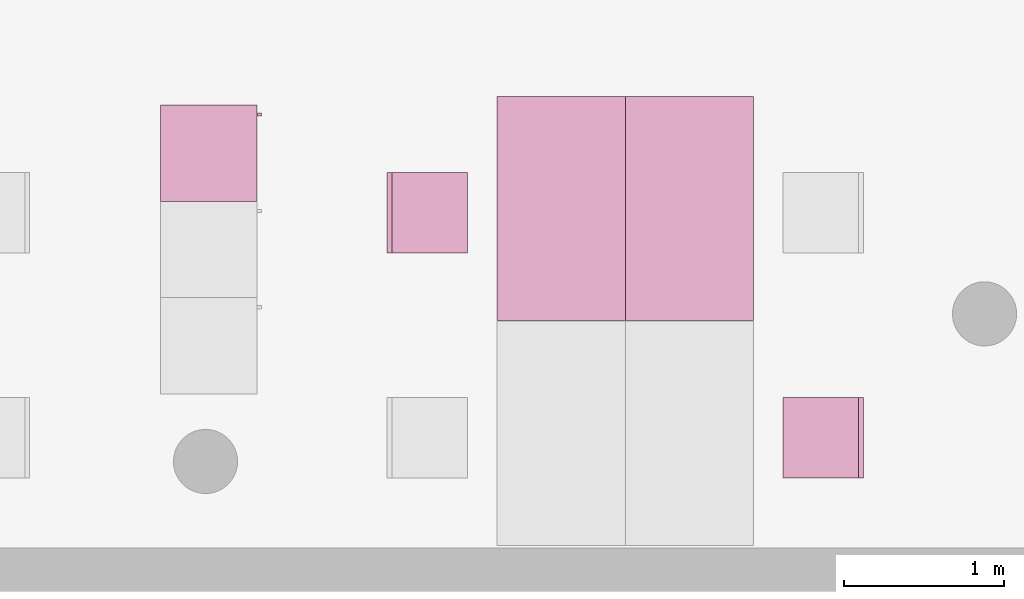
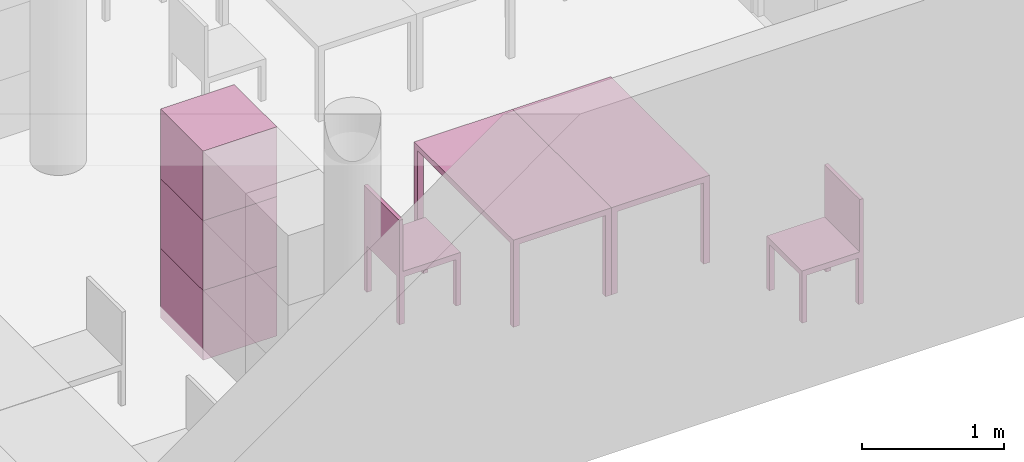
"""IFC4 building model written with IfcOpenShell, lengths in metres."""

from ifc_helpers import new_model, entity, si_unit, converted_unit, derived_unit, frame, origin, place, context, subcontext, project, spatial, faceted_brep, element, save


model = new_model("IFC4")

# Units and contexts
model_context = context("Model", 3, precision=1e-05, world=origin())
body_context = subcontext(model_context, "Body", "Model", "MODEL_VIEW")
ifc_project = project(units=[si_unit("LENGTHUNIT", "METRE"), si_unit("AREAUNIT", "SQUARE_METRE"), si_unit("VOLUMEUNIT", "CUBIC_METRE"), si_unit("MASSUNIT", "GRAM", prefix="KILO"), converted_unit("PLANEANGLEUNIT", "DEGREE", entity("IfcPlaneAngleMeasure", 0.0174532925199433), si_unit("PLANEANGLEUNIT", "RADIAN"), dimensions=[0, 0, 0, 0, 0, 0, 0]), derived_unit("THERMALTRANSMITTANCEUNIT", [(si_unit("POWERUNIT", "WATT"), 1), (si_unit("THERMODYNAMICTEMPERATUREUNIT", "KELVIN"), -1), (si_unit("LENGTHUNIT", "METRE"), -2)]), derived_unit("VOLUMETRICFLOWRATEUNIT", [(si_unit("LENGTHUNIT", "METRE"), 3), (converted_unit("TIMEUNIT", "hour", entity("IfcTimeMeasure", 3600.0), si_unit("TIMEUNIT", "SECOND"), dimensions=[0, 0, 1, 0, 0, 0, 0]), -1), (si_unit("LENGTHUNIT", "METRE"), -1)])], contexts=[model_context])

# Building, storeys
building_placement = place(None, origin())
building = spatial("IfcBuilding", under=ifc_project, at=building_placement, Name="HABITATGE PLURIFAMILIAR", CompositionType="ELEMENT")
storey_1_placement = place(building_placement, frame((0.0, 0.0, 12.27)))
storey_1 = spatial("IfcBuildingStorey", under=building, at=storey_1_placement, Name="PLANTA TERCERA", CompositionType="ELEMENT", Elevation=12.27)
storey_2_placement = place(storey_1_placement, frame((0.0, 0.0, 9.26)))
storey_2 = spatial("IfcBuildingStorey", under=storey_1, at=storey_2_placement, Name="NOU", CompositionType="PARTIAL")

# Furniture
furniture_1_placement = place(storey_2_placement, frame((418.75287675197, 14.5280503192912, -9.3599999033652)))
element("IfcFurniture", 1, at=furniture_1_placement, inside=storey_2, Name="Taula 140X80_P3", context=body_context, shape_type="Brep", body=[
    faceted_brep([(0.05, 0.0437500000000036, 0.0), (0.0, 0.0437500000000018, 0.0), (0.0, 0.0, 0.0), (0.05, 0.0, 0.0), (0.0, 0.0437500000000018, 0.7), (0.05, 0.0437500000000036, 0.7), (0.05, 0.0, 0.7), (0.0, 0.0, 0.7)], [[[0, 1, 2, 3]], [[4, 5, 6, 7]], [[1, 0, 5, 4]], [[2, 1, 4, 7]], [[3, 2, 7, 6]], [[0, 3, 6, 5]]], orient=[[False], [False], [False], [False], [False], [False]]),
    faceted_brep([(0.800069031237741, 0.0437500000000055, 0.0), (0.750069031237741, 0.0437500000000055, 0.0), (0.750069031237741, 0.0, 0.0), (0.800069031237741, 0.0, 0.0), (0.750069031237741, 0.0437500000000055, 0.7), (0.800069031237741, 0.0437500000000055, 0.7), (0.800069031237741, 0.0, 0.7), (0.750069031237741, 0.0, 0.7)], [[[0, 1, 2, 3]], [[4, 5, 6, 7]], [[1, 0, 5, 4]], [[2, 1, 4, 7]], [[3, 2, 7, 6]], [[0, 3, 6, 5]]], orient=[[False], [False], [False], [False], [False], [False]]),
    faceted_brep([(0.800069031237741, 1.39732768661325, 0.7), (0.0, 1.39732768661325, 0.7), (0.0, 0.0, 0.7), (0.800069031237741, 0.0, 0.7), (0.0, 1.39732768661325, 0.75), (0.800069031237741, 1.39732768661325, 0.75), (0.800069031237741, 0.0, 0.75), (0.0, 0.0, 0.75)], [[[0, 1, 2, 3]], [[4, 5, 6, 7]], [[1, 0, 5, 4]], [[2, 1, 4, 7]], [[3, 2, 7, 6]], [[0, 3, 6, 5]]], orient=[[False], [False], [False], [False], [False], [False]]),
    faceted_brep([(0.05, 1.39732768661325, 0.0), (0.0, 1.39732768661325, 0.0), (0.0, 1.35357768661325, 0.0), (0.05, 1.35357768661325, 0.0), (0.0, 1.39732768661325, 0.7), (0.05, 1.39732768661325, 0.7), (0.05, 1.35357768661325, 0.7), (0.0, 1.35357768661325, 0.7)], [[[0, 1, 2, 3]], [[4, 5, 6, 7]], [[1, 0, 5, 4]], [[2, 1, 4, 7]], [[3, 2, 7, 6]], [[0, 3, 6, 5]]], orient=[[False], [False], [False], [False], [False], [False]]),
    faceted_brep([(0.800069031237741, 1.39732768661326, 0.0), (0.750069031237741, 1.39732768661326, 0.0), (0.750069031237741, 1.35357768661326, 0.0), (0.800069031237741, 1.35357768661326, 0.0), (0.750069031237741, 1.39732768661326, 0.7), (0.800069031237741, 1.39732768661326, 0.7), (0.800069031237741, 1.35357768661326, 0.7), (0.750069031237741, 1.35357768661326, 0.7)], [[[0, 1, 2, 3]], [[4, 5, 6, 7]], [[1, 0, 5, 4]], [[2, 1, 4, 7]], [[3, 2, 7, 6]], [[0, 3, 6, 5]]], orient=[[False], [False], [False], [False], [False], [False]]),
])
furniture_2_placement = place(storey_2_placement, frame((417.952807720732, 14.5280503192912, -9.3599999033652)))
element("IfcFurniture", 2, at=furniture_2_placement, inside=storey_2, Name="Taula 140X80_P3", context=body_context, shape_type="Brep", body=[
    faceted_brep([(0.750069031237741, 0.0437500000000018, 0.0), (0.750069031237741, 0.0, 0.0), (0.800069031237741, 0.0, 0.0), (0.800069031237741, 0.0437500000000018, 0.0), (0.800069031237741, 0.0437500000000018, 0.7), (0.800069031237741, 0.0, 0.7), (0.750069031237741, 0.0, 0.7), (0.750069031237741, 0.0437500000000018, 0.7)], [[[0, 1, 2, 3]], [[4, 5, 6, 7]], [[3, 4, 7, 0]], [[2, 5, 4, 3]], [[1, 6, 5, 2]], [[0, 7, 6, 1]]], orient=[[False], [False], [False], [False], [False], [False]]),
    faceted_brep([(0.0, 0.0437500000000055, 0.0), (0.0, 0.0, 0.0), (0.05, 0.0, 0.0), (0.05, 0.0437500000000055, 0.0), (0.05, 0.0437500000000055, 0.7), (0.05, 0.0, 0.7), (0.0, 0.0, 0.7), (0.0, 0.0437500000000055, 0.7)], [[[0, 1, 2, 3]], [[4, 5, 6, 7]], [[3, 4, 7, 0]], [[2, 5, 4, 3]], [[1, 6, 5, 2]], [[0, 7, 6, 1]]], orient=[[False], [False], [False], [False], [False], [False]]),
    faceted_brep([(0.0, 1.39732768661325, 0.7), (0.0, 0.0, 0.7), (0.800069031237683, 0.0, 0.7), (0.800069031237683, 1.39732768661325, 0.7), (0.800069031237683, 1.39732768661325, 0.75), (0.800069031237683, 0.0, 0.75), (0.0, 0.0, 0.75), (0.0, 1.39732768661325, 0.75)], [[[0, 1, 2, 3]], [[4, 5, 6, 7]], [[3, 4, 7, 0]], [[2, 5, 4, 3]], [[1, 6, 5, 2]], [[0, 7, 6, 1]]], orient=[[False], [False], [False], [False], [False], [False]]),
    faceted_brep([(0.750069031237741, 1.39732768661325, 0.0), (0.750069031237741, 1.35357768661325, 0.0), (0.800069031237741, 1.35357768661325, 0.0), (0.800069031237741, 1.39732768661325, 0.0), (0.800069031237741, 1.39732768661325, 0.7), (0.800069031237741, 1.35357768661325, 0.7), (0.750069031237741, 1.35357768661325, 0.7), (0.750069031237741, 1.39732768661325, 0.7)], [[[0, 1, 2, 3]], [[4, 5, 6, 7]], [[3, 4, 7, 0]], [[2, 5, 4, 3]], [[1, 6, 5, 2]], [[0, 7, 6, 1]]], orient=[[False], [False], [False], [False], [False], [False]]),
    faceted_brep([(0.0, 1.39732768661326, 0.0), (0.0, 1.35357768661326, 0.0), (0.05, 1.35357768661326, 0.0), (0.05, 1.39732768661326, 0.0), (0.05, 1.39732768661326, 0.7), (0.05, 1.35357768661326, 0.7), (0.0, 1.35357768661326, 0.7), (0.0, 1.39732768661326, 0.7)], [[[0, 1, 2, 3]], [[4, 5, 6, 7]], [[3, 4, 7, 0]], [[2, 5, 4, 3]], [[1, 6, 5, 2]], [[0, 7, 6, 1]]], orient=[[False], [False], [False], [False], [False], [False]]),
])
furniture_3_placement = place(storey_2_placement, frame((415.856984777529, 15.2711705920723, -8.7599999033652)))
element("IfcFurniture", 3, at=furniture_3_placement, inside=storey_2, Name="Armai 60x60x60_P3", context=body_context, shape_type="Brep", body=[
    faceted_brep([(0.6, 0.600000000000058, 0.02), (0.6, 0.600000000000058, 0.0), (0.6, 0.0, 0.0), (0.6, 0.0, 0.02), (0.0, 0.0, 0.0), (0.0, 0.0, 0.02), (0.0, 0.600000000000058, 0.0), (0.0, 0.600000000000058, 0.02)], [[[0, 1, 2, 3]], [[3, 2, 4, 5]], [[5, 4, 6, 7]], [[7, 6, 1, 0]], [[0, 3, 5, 7]], [[1, 6, 4, 2]]], orient=[[False], [False], [False], [False], [False], [False]]),
    faceted_brep([(0.0, 0.02, 0.58), (0.0200000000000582, 0.02, 0.58), (0.0200000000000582, 0.02, 0.02), (0.0, 0.02, 0.02), (0.0200000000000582, 0.58, 0.02), (0.0, 0.58, 0.02), (0.0200000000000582, 0.58, 0.58), (0.0, 0.58, 0.58)], [[[0, 1, 2, 3]], [[3, 2, 4, 5]], [[5, 4, 6, 7]], [[7, 6, 1, 0]], [[0, 3, 5, 7]], [[1, 6, 4, 2]]], orient=[[False], [False], [False], [False], [False], [False]]),
    faceted_brep([(0.6, 0.58, 0.58), (0.6, 0.6, 0.58), (0.6, 0.6, 0.02), (0.6, 0.58, 0.02), (0.0, 0.6, 0.02), (0.0, 0.58, 0.02), (0.0, 0.6, 0.58), (0.0, 0.58, 0.58)], [[[0, 1, 2, 3]], [[3, 2, 4, 5]], [[5, 4, 6, 7]], [[7, 6, 1, 0]], [[0, 3, 5, 7]], [[1, 6, 4, 2]]], orient=[[False], [False], [False], [False], [False], [False]]),
    faceted_brep([(0.58, 0.600000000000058, 0.58), (0.6, 0.600000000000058, 0.58), (0.6, 0.600000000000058, 0.02), (0.58, 0.600000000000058, 0.02), (0.6, 0.580000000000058, 0.02), (0.58, 0.580000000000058, 0.02), (0.6, 0.580000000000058, 0.58), (0.58, 0.580000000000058, 0.58)], [[[0, 1, 2, 3]], [[3, 2, 4, 5]], [[5, 4, 6, 7]], [[7, 6, 1, 0]], [[0, 3, 5, 7]], [[1, 6, 4, 2]]], orient=[[False], [False], [False], [False], [False], [False]]),
    faceted_brep([(0.6, 0.0, 0.58), (0.6, 0.0200000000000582, 0.58), (0.6, 0.0200000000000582, 0.02), (0.6, 0.0, 0.02), (0.0, 0.0200000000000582, 0.02), (0.0, 0.0, 0.02), (0.0, 0.0200000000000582, 0.58), (0.0, 0.0, 0.58)], [[[0, 1, 2, 3]], [[3, 2, 4, 5]], [[5, 4, 6, 7]], [[7, 6, 1, 0]], [[0, 3, 5, 7]], [[1, 6, 4, 2]]], orient=[[False], [False], [False], [False], [False], [False]]),
    faceted_brep([(0.600000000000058, 0.6, 0.6), (0.600000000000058, 0.6, 0.58), (0.600000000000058, 0.0, 0.58), (0.600000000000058, 0.0, 0.6), (0.0, 0.0, 0.58), (0.0, 0.0, 0.6), (0.0, 0.6, 0.58), (0.0, 0.6, 0.6)], [[[0, 1, 2, 3]], [[3, 2, 4, 5]], [[5, 4, 6, 7]], [[7, 6, 1, 0]], [[0, 3, 5, 7]], [[1, 6, 4, 2]]], orient=[[False], [False], [False], [False], [False], [False]]),
    faceted_brep([(0.580000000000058, 0.02, 0.58), (0.600000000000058, 0.02, 0.58), (0.600000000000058, 0.02, 0.02), (0.580000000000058, 0.02, 0.02), (0.600000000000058, 0.580000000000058, 0.02), (0.580000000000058, 0.580000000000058, 0.02), (0.600000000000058, 0.580000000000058, 0.58), (0.580000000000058, 0.580000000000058, 0.58)], [[[0, 1, 2, 3]], [[3, 2, 4, 5]], [[5, 4, 6, 7]], [[7, 6, 1, 0]], [[0, 3, 5, 7]], [[1, 6, 4, 2]]], orient=[[False], [False], [False], [False], [False], [False]]),
    faceted_brep([(0.600000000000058, 0.53, 0.358064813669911), (0.630000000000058, 0.53, 0.358064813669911), (0.630000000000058, 0.53, 0.258064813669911), (0.600000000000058, 0.53, 0.258064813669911), (0.630000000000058, 0.55, 0.258064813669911), (0.600000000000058, 0.55, 0.258064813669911), (0.630000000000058, 0.55, 0.358064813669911), (0.600000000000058, 0.55, 0.358064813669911)], [[[0, 1, 2, 3]], [[3, 2, 4, 5]], [[5, 4, 6, 7]], [[7, 6, 1, 0]], [[0, 3, 5, 7]], [[1, 6, 4, 2]]], orient=[[False], [False], [False], [False], [False], [False]]),
])
furniture_4_placement = place(storey_2_placement, frame((415.856984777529, 15.2711705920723, -8.1599999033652)))
element("IfcFurniture", 4, at=furniture_4_placement, inside=storey_2, Name="Armai 60x60x60_P3", context=body_context, shape_type="Brep", body=[
    faceted_brep([(0.6, 0.600000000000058, 0.02), (0.6, 0.600000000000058, 0.0), (0.6, 0.0, 0.0), (0.6, 0.0, 0.02), (0.0, 0.0, 0.0), (0.0, 0.0, 0.02), (0.0, 0.600000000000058, 0.0), (0.0, 0.600000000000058, 0.02)], [[[0, 1, 2, 3]], [[3, 2, 4, 5]], [[5, 4, 6, 7]], [[7, 6, 1, 0]], [[0, 3, 5, 7]], [[1, 6, 4, 2]]], orient=[[False], [False], [False], [False], [False], [False]]),
    faceted_brep([(0.0, 0.02, 0.58), (0.0200000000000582, 0.02, 0.58), (0.0200000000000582, 0.02, 0.02), (0.0, 0.02, 0.02), (0.0200000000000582, 0.58, 0.02), (0.0, 0.58, 0.02), (0.0200000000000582, 0.58, 0.58), (0.0, 0.58, 0.58)], [[[0, 1, 2, 3]], [[3, 2, 4, 5]], [[5, 4, 6, 7]], [[7, 6, 1, 0]], [[0, 3, 5, 7]], [[1, 6, 4, 2]]], orient=[[False], [False], [False], [False], [False], [False]]),
    faceted_brep([(0.6, 0.58, 0.58), (0.6, 0.6, 0.58), (0.6, 0.6, 0.02), (0.6, 0.58, 0.02), (0.0, 0.6, 0.02), (0.0, 0.58, 0.02), (0.0, 0.6, 0.58), (0.0, 0.58, 0.58)], [[[0, 1, 2, 3]], [[3, 2, 4, 5]], [[5, 4, 6, 7]], [[7, 6, 1, 0]], [[0, 3, 5, 7]], [[1, 6, 4, 2]]], orient=[[False], [False], [False], [False], [False], [False]]),
    faceted_brep([(0.58, 0.600000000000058, 0.58), (0.6, 0.600000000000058, 0.58), (0.6, 0.600000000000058, 0.02), (0.58, 0.600000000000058, 0.02), (0.6, 0.580000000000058, 0.02), (0.58, 0.580000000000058, 0.02), (0.6, 0.580000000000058, 0.58), (0.58, 0.580000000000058, 0.58)], [[[0, 1, 2, 3]], [[3, 2, 4, 5]], [[5, 4, 6, 7]], [[7, 6, 1, 0]], [[0, 3, 5, 7]], [[1, 6, 4, 2]]], orient=[[False], [False], [False], [False], [False], [False]]),
    faceted_brep([(0.6, 0.0, 0.58), (0.6, 0.0200000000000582, 0.58), (0.6, 0.0200000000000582, 0.02), (0.6, 0.0, 0.02), (0.0, 0.0200000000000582, 0.02), (0.0, 0.0, 0.02), (0.0, 0.0200000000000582, 0.58), (0.0, 0.0, 0.58)], [[[0, 1, 2, 3]], [[3, 2, 4, 5]], [[5, 4, 6, 7]], [[7, 6, 1, 0]], [[0, 3, 5, 7]], [[1, 6, 4, 2]]], orient=[[False], [False], [False], [False], [False], [False]]),
    faceted_brep([(0.600000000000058, 0.6, 0.6), (0.600000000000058, 0.6, 0.58), (0.600000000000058, 0.0, 0.58), (0.600000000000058, 0.0, 0.6), (0.0, 0.0, 0.58), (0.0, 0.0, 0.6), (0.0, 0.6, 0.58), (0.0, 0.6, 0.6)], [[[0, 1, 2, 3]], [[3, 2, 4, 5]], [[5, 4, 6, 7]], [[7, 6, 1, 0]], [[0, 3, 5, 7]], [[1, 6, 4, 2]]], orient=[[False], [False], [False], [False], [False], [False]]),
    faceted_brep([(0.580000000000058, 0.02, 0.58), (0.600000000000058, 0.02, 0.58), (0.600000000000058, 0.02, 0.02), (0.580000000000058, 0.02, 0.02), (0.600000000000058, 0.580000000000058, 0.02), (0.580000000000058, 0.580000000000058, 0.02), (0.600000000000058, 0.580000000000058, 0.58), (0.580000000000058, 0.580000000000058, 0.58)], [[[0, 1, 2, 3]], [[3, 2, 4, 5]], [[5, 4, 6, 7]], [[7, 6, 1, 0]], [[0, 3, 5, 7]], [[1, 6, 4, 2]]], orient=[[False], [False], [False], [False], [False], [False]]),
    faceted_brep([(0.600000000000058, 0.53, 0.358064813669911), (0.630000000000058, 0.53, 0.358064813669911), (0.630000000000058, 0.53, 0.258064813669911), (0.600000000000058, 0.53, 0.258064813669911), (0.630000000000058, 0.55, 0.258064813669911), (0.600000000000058, 0.55, 0.258064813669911), (0.630000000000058, 0.55, 0.358064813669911), (0.600000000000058, 0.55, 0.358064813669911)], [[[0, 1, 2, 3]], [[3, 2, 4, 5]], [[5, 4, 6, 7]], [[7, 6, 1, 0]], [[0, 3, 5, 7]], [[1, 6, 4, 2]]], orient=[[False], [False], [False], [False], [False], [False]]),
])
furniture_5_placement = place(storey_2_placement, frame((415.856984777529, 15.2711705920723, -9.3599999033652)))
element("IfcFurniture", 5, at=furniture_5_placement, inside=storey_2, Name="Armai 60x60x60_P3", context=body_context, shape_type="Brep", body=[
    faceted_brep([(0.6, 0.600000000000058, 0.02), (0.6, 0.600000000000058, 0.0), (0.6, 0.0, 0.0), (0.6, 0.0, 0.02), (0.0, 0.0, 0.0), (0.0, 0.0, 0.02), (0.0, 0.600000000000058, 0.0), (0.0, 0.600000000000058, 0.02)], [[[0, 1, 2, 3]], [[3, 2, 4, 5]], [[5, 4, 6, 7]], [[7, 6, 1, 0]], [[0, 3, 5, 7]], [[1, 6, 4, 2]]], orient=[[False], [False], [False], [False], [False], [False]]),
    faceted_brep([(0.0, 0.02, 0.58), (0.0200000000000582, 0.02, 0.58), (0.0200000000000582, 0.02, 0.02), (0.0, 0.02, 0.02), (0.0200000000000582, 0.58, 0.02), (0.0, 0.58, 0.02), (0.0200000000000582, 0.58, 0.58), (0.0, 0.58, 0.58)], [[[0, 1, 2, 3]], [[3, 2, 4, 5]], [[5, 4, 6, 7]], [[7, 6, 1, 0]], [[0, 3, 5, 7]], [[1, 6, 4, 2]]], orient=[[False], [False], [False], [False], [False], [False]]),
    faceted_brep([(0.6, 0.58, 0.58), (0.6, 0.6, 0.58), (0.6, 0.6, 0.02), (0.6, 0.58, 0.02), (0.0, 0.6, 0.02), (0.0, 0.58, 0.02), (0.0, 0.6, 0.58), (0.0, 0.58, 0.58)], [[[0, 1, 2, 3]], [[3, 2, 4, 5]], [[5, 4, 6, 7]], [[7, 6, 1, 0]], [[0, 3, 5, 7]], [[1, 6, 4, 2]]], orient=[[False], [False], [False], [False], [False], [False]]),
    faceted_brep([(0.58, 0.600000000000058, 0.58), (0.6, 0.600000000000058, 0.58), (0.6, 0.600000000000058, 0.02), (0.58, 0.600000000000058, 0.02), (0.6, 0.580000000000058, 0.02), (0.58, 0.580000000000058, 0.02), (0.6, 0.580000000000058, 0.58), (0.58, 0.580000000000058, 0.58)], [[[0, 1, 2, 3]], [[3, 2, 4, 5]], [[5, 4, 6, 7]], [[7, 6, 1, 0]], [[0, 3, 5, 7]], [[1, 6, 4, 2]]], orient=[[False], [False], [False], [False], [False], [False]]),
    faceted_brep([(0.6, 0.0, 0.58), (0.6, 0.0200000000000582, 0.58), (0.6, 0.0200000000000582, 0.02), (0.6, 0.0, 0.02), (0.0, 0.0200000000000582, 0.02), (0.0, 0.0, 0.02), (0.0, 0.0200000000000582, 0.58), (0.0, 0.0, 0.58)], [[[0, 1, 2, 3]], [[3, 2, 4, 5]], [[5, 4, 6, 7]], [[7, 6, 1, 0]], [[0, 3, 5, 7]], [[1, 6, 4, 2]]], orient=[[False], [False], [False], [False], [False], [False]]),
    faceted_brep([(0.600000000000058, 0.6, 0.6), (0.600000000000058, 0.6, 0.58), (0.600000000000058, 0.0, 0.58), (0.600000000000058, 0.0, 0.6), (0.0, 0.0, 0.58), (0.0, 0.0, 0.6), (0.0, 0.6, 0.58), (0.0, 0.6, 0.6)], [[[0, 1, 2, 3]], [[3, 2, 4, 5]], [[5, 4, 6, 7]], [[7, 6, 1, 0]], [[0, 3, 5, 7]], [[1, 6, 4, 2]]], orient=[[False], [False], [False], [False], [False], [False]]),
    faceted_brep([(0.580000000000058, 0.02, 0.58), (0.600000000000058, 0.02, 0.58), (0.600000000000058, 0.02, 0.02), (0.580000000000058, 0.02, 0.02), (0.600000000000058, 0.580000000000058, 0.02), (0.580000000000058, 0.580000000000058, 0.02), (0.600000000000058, 0.580000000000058, 0.58), (0.580000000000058, 0.580000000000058, 0.58)], [[[0, 1, 2, 3]], [[3, 2, 4, 5]], [[5, 4, 6, 7]], [[7, 6, 1, 0]], [[0, 3, 5, 7]], [[1, 6, 4, 2]]], orient=[[False], [False], [False], [False], [False], [False]]),
    faceted_brep([(0.600000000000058, 0.53, 0.358064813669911), (0.630000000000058, 0.53, 0.358064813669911), (0.630000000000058, 0.53, 0.258064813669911), (0.600000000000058, 0.53, 0.258064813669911), (0.630000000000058, 0.55, 0.258064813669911), (0.600000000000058, 0.55, 0.258064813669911), (0.630000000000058, 0.55, 0.358064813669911), (0.600000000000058, 0.55, 0.358064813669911)], [[[0, 1, 2, 3]], [[3, 2, 4, 5]], [[5, 4, 6, 7]], [[7, 6, 1, 0]], [[0, 3, 5, 7]], [[1, 6, 4, 2]]], orient=[[False], [False], [False], [False], [False], [False]]),
])
furniture_6_placement = place(storey_2_placement, frame((419.737087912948, 13.5480313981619, -9.35590342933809)))
element("IfcFurniture", 6, at=furniture_6_placement, inside=storey_2, Name="Cadira d'Oficina_P3", context=body_context, shape_type="Brep", body=[
    faceted_brep([(0.0, 0.500000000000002, 0.4), (0.0, 0.0, 0.4), (0.5, 0.0, 0.4), (0.5, 0.5, 0.4), (0.5, 0.5, 0.45), (0.5, 0.0, 0.45), (0.0, 0.0, 0.45), (0.0, 0.500000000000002, 0.45)], [[[0, 1, 2, 3]], [[4, 5, 6, 7]], [[3, 4, 7, 0]], [[2, 5, 4, 3]], [[1, 6, 5, 2]], [[0, 7, 6, 1]]], orient=[[False], [False], [False], [False], [False], [False]]),
    faceted_brep([(0.46, 0.0, 0.0), (0.5, 0.0, 0.0), (0.5, 0.04, 0.0), (0.46, 0.0400000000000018, 0.0), (0.46, 0.0400000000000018, 0.4), (0.5, 0.04, 0.4), (0.5, 0.0, 0.4), (0.46, 0.0, 0.4)], [[[0, 1, 2, 3]], [[4, 5, 6, 7]], [[3, 4, 7, 0]], [[2, 5, 4, 3]], [[1, 6, 5, 2]], [[0, 7, 6, 1]]], orient=[[False], [False], [False], [False], [False], [False]]),
    faceted_brep([(0.0, 0.0, 0.0), (0.04, 0.0, 0.0), (0.04, 0.0400000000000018, 0.0), (0.0, 0.0400000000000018, 0.0), (0.0, 0.0400000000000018, 0.4), (0.04, 0.0400000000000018, 0.4), (0.04, 0.0, 0.4), (0.0, 0.0, 0.4)], [[[0, 1, 2, 3]], [[4, 5, 6, 7]], [[3, 4, 7, 0]], [[2, 5, 4, 3]], [[1, 6, 5, 2]], [[0, 7, 6, 1]]], orient=[[False], [False], [False], [False], [False], [False]]),
    faceted_brep([(0.46, 0.46, 0.0), (0.5, 0.46, 0.0), (0.5, 0.5, 0.0), (0.46, 0.5, 0.0), (0.46, 0.5, 0.4), (0.5, 0.5, 0.4), (0.5, 0.46, 0.4), (0.46, 0.46, 0.4)], [[[0, 1, 2, 3]], [[4, 5, 6, 7]], [[3, 4, 7, 0]], [[2, 5, 4, 3]], [[1, 6, 5, 2]], [[0, 7, 6, 1]]], orient=[[False], [False], [False], [False], [False], [False]]),
    faceted_brep([(0.0, 0.460000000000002, 0.0), (0.04, 0.460000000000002, 0.0), (0.04, 0.500000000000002, 0.0), (0.0, 0.500000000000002, 0.0), (0.0, 0.500000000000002, 0.4), (0.04, 0.500000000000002, 0.4), (0.04, 0.460000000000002, 0.4), (0.0, 0.460000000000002, 0.4)], [[[0, 1, 2, 3]], [[4, 5, 6, 7]], [[3, 4, 7, 0]], [[2, 5, 4, 3]], [[1, 6, 5, 2]], [[0, 7, 6, 1]]], orient=[[False], [False], [False], [False], [False], [False]]),
    faceted_brep([(0.47, 0.0, 0.45), (0.5, 0.0, 0.45), (0.5, 0.5, 0.45), (0.47, 0.5, 0.45), (0.47, 0.5, 0.9), (0.5, 0.5, 0.9), (0.5, 0.0, 0.9), (0.47, 0.0, 0.9)], [[[0, 1, 2, 3]], [[4, 5, 6, 7]], [[3, 4, 7, 0]], [[2, 5, 4, 3]], [[1, 6, 5, 2]], [[0, 7, 6, 1]]], orient=[[False], [False], [False], [False], [False], [False]]),
])
furniture_7_placement = place(storey_2_placement, frame((417.268665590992, 14.9492104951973, -9.3546338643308)))
element("IfcFurniture", 7, at=furniture_7_placement, inside=storey_2, Name="Cadira d'Oficina_P3", context=body_context, shape_type="Brep", body=[
    faceted_brep([(0.500000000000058, 0.500000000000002, 0.4), (0.0, 0.5, 0.4), (0.0, 0.0, 0.4), (0.500000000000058, 0.0, 0.4), (0.0, 0.5, 0.45), (0.500000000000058, 0.500000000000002, 0.45), (0.500000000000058, 0.0, 0.45), (0.0, 0.0, 0.45)], [[[0, 1, 2, 3]], [[4, 5, 6, 7]], [[1, 0, 5, 4]], [[2, 1, 4, 7]], [[3, 2, 7, 6]], [[0, 3, 6, 5]]], orient=[[False], [False], [False], [False], [False], [False]]),
    faceted_brep([(0.0400000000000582, 0.0, 0.0), (0.0400000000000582, 0.0400000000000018, 0.0), (0.0, 0.04, 0.0), (0.0, 0.0, 0.0), (0.0400000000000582, 0.0400000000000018, 0.4), (0.0400000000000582, 0.0, 0.4), (0.0, 0.0, 0.4), (0.0, 0.04, 0.4)], [[[0, 1, 2, 3]], [[4, 5, 6, 7]], [[1, 0, 5, 4]], [[2, 1, 4, 7]], [[3, 2, 7, 6]], [[0, 3, 6, 5]]], orient=[[False], [False], [False], [False], [False], [False]]),
    faceted_brep([(0.500000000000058, 0.0, 0.0), (0.500000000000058, 0.0400000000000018, 0.0), (0.460000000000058, 0.0400000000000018, 0.0), (0.460000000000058, 0.0, 0.0), (0.500000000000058, 0.0400000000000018, 0.4), (0.500000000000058, 0.0, 0.4), (0.460000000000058, 0.0, 0.4), (0.460000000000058, 0.0400000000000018, 0.4)], [[[0, 1, 2, 3]], [[4, 5, 6, 7]], [[1, 0, 5, 4]], [[2, 1, 4, 7]], [[3, 2, 7, 6]], [[0, 3, 6, 5]]], orient=[[False], [False], [False], [False], [False], [False]]),
    faceted_brep([(0.04, 0.46, 0.0), (0.04, 0.5, 0.0), (0.0, 0.5, 0.0), (0.0, 0.46, 0.0), (0.04, 0.5, 0.4), (0.04, 0.46, 0.4), (0.0, 0.46, 0.4), (0.0, 0.5, 0.4)], [[[0, 1, 2, 3]], [[4, 5, 6, 7]], [[1, 0, 5, 4]], [[2, 1, 4, 7]], [[3, 2, 7, 6]], [[0, 3, 6, 5]]], orient=[[False], [False], [False], [False], [False], [False]]),
    faceted_brep([(0.500000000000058, 0.460000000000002, 0.0), (0.500000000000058, 0.500000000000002, 0.0), (0.460000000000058, 0.500000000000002, 0.0), (0.460000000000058, 0.460000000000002, 0.0), (0.500000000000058, 0.500000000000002, 0.4), (0.500000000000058, 0.460000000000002, 0.4), (0.460000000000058, 0.460000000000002, 0.4), (0.460000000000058, 0.500000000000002, 0.4)], [[[0, 1, 2, 3]], [[4, 5, 6, 7]], [[1, 0, 5, 4]], [[2, 1, 4, 7]], [[3, 2, 7, 6]], [[0, 3, 6, 5]]], orient=[[False], [False], [False], [False], [False], [False]]),
    faceted_brep([(0.0300000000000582, 0.0, 0.45), (0.03, 0.5, 0.45), (0.0, 0.5, 0.45), (0.0, 0.0, 0.45), (0.03, 0.5, 0.9), (0.0300000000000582, 0.0, 0.9), (0.0, 0.0, 0.9), (0.0, 0.5, 0.9)], [[[0, 1, 2, 3]], [[4, 5, 6, 7]], [[1, 0, 5, 4]], [[2, 1, 4, 7]], [[3, 2, 7, 6]], [[0, 3, 6, 5]]], orient=[[False], [False], [False], [False], [False], [False]]),
])

save(model, "model.ifc")
